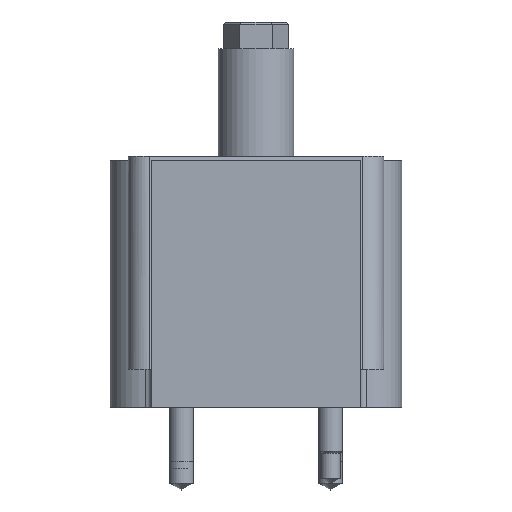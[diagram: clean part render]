
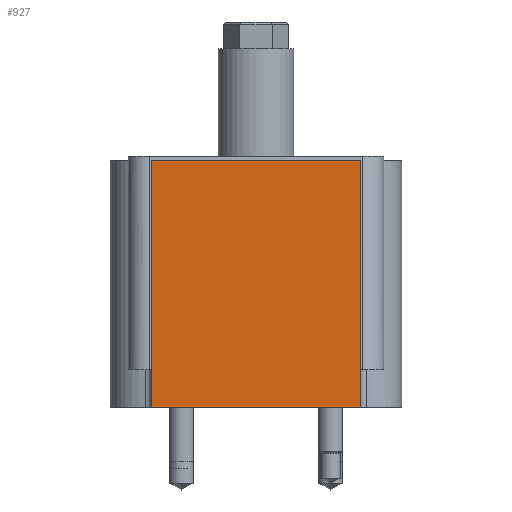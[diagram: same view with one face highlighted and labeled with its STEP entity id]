
A CAD part, left-side view. The second image highlights one B-rep face of the part: STEP entity #927.
In plain terms, the highlighted planar face has unit normal (-1, 0, 0).
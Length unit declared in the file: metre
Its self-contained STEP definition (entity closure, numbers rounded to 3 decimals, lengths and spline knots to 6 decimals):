
#927=ADVANCED_FACE('',(#1893),#1894,.T.);
#1893=FACE_OUTER_BOUND('',#11387,.T.);
#1894=PLANE('',#11388);
#11387=EDGE_LOOP('',(#13214,#13215,#13216,#13217));
#11388=AXIS2_PLACEMENT_3D('',#13218,#13219,#13220);
#13214=ORIENTED_EDGE('',*,*,#13933,.F.);
#13215=ORIENTED_EDGE('',*,*,#13897,.T.);
#13216=ORIENTED_EDGE('',*,*,#13910,.F.);
#13217=ORIENTED_EDGE('',*,*,#13919,.T.);
#13218=CARTESIAN_POINT('',(-0.084201,0.0,0.0));
#13219=DIRECTION('',(-1.0,0.0,0.0));
#13220=DIRECTION('',(0.0,0.0,1.0));
#13897=EDGE_CURVE('',#14871,#14869,#14872,.T.);
#13910=EDGE_CURVE('',#14891,#14869,#14893,.F.);
#13919=EDGE_CURVE('',#14891,#14907,#14909,.T.);
#13933=EDGE_CURVE('',#14871,#14907,#14923,.F.);
#14869=VERTEX_POINT('',#18265);
#14871=VERTEX_POINT('',#18268);
#14872=LINE('',#18269,#18270);
#14891=VERTEX_POINT('',#18291);
#14893=LINE('',#18294,#18295);
#14907=VERTEX_POINT('',#18312);
#14909=LINE('',#18315,#18316);
#14923=LINE('',#18336,#18337);
#18265=CARTESIAN_POINT('',(-0.084201,-0.034988,0.0));
#18268=CARTESIAN_POINT('',(-0.084201,0.034988,0.0));
#18269=CARTESIAN_POINT('',(-0.084201,0.0,0.0));
#18270=VECTOR('',#19038,1.0);
#18291=CARTESIAN_POINT('',(-0.084201,-0.034988,0.08255));
#18294=CARTESIAN_POINT('',(-0.084201,-0.034988,0.0));
#18295=VECTOR('',#19060,1.0);
#18312=CARTESIAN_POINT('',(-0.084201,0.034988,0.08255));
#18315=CARTESIAN_POINT('',(-0.084201,0.0,0.08255));
#18316=VECTOR('',#19074,1.0);
#18336=CARTESIAN_POINT('',(-0.084201,0.034988,0.0));
#18337=VECTOR('',#19084,1.0);
#19038=DIRECTION('',(-0.0,-1.0,-0.0));
#19060=DIRECTION('',(0.0,0.0,1.0));
#19074=DIRECTION('',(0.0,1.0,0.0));
#19084=DIRECTION('',(0.0,0.0,-1.0));
